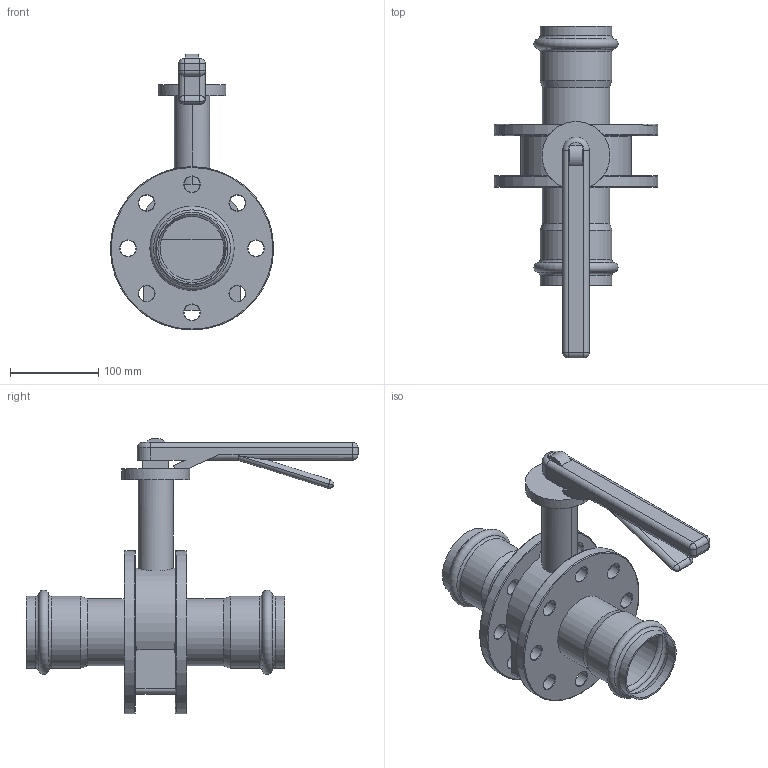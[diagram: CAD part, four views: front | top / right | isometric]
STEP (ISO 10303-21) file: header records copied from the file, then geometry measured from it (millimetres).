
FILE_DESCRIPTION(/* description */ (''),/* implementation_level */ '2;1');
FILE_NAME(/* name */ '51251140101.stp',/* time_stamp */ '2020-06-22T14:23:31+08:00',/* author */ (''),/* organization */ (''),/* preprocessor_version */ 'ST-DEVELOPER v11',/* originating_system */ 'SIEMENS PLM Software NX 7.5',/* authorisation */ '');
FILE_SCHEMA (('CONFIG_CONTROL_DESIGN'));
Length unit declared in the file: millimetre
Products named in the file (1): Admi4F60b423
Bounding box: 185 x 376 x 312.5 mm (x, y, z)
Volume: 1713217.2 mm3; surface area: 336899.2 mm2
Topology: 3 solids, 3 shells, 183 faces, 409 edges, 244 vertices
Faces by surface type: cylinder 53, cone 50, plane 45, torus 27, sphere 8
Full cylindrical faces by diameter (mm): 18 x16, 72.1 x2, 76.1 x2, 77.3 x4, 81.3 x4, 185 x2
Entity records: 4558 total; most frequent: DIRECTION 834, CARTESIAN_POINT 747, ORIENTED_EDGE 574, AXIS2_PLACEMENT_3D 371, EDGE_LOOP 339, EDGE_CURVE 287, FACE_BOUND 280, VERTEX_POINT 228
